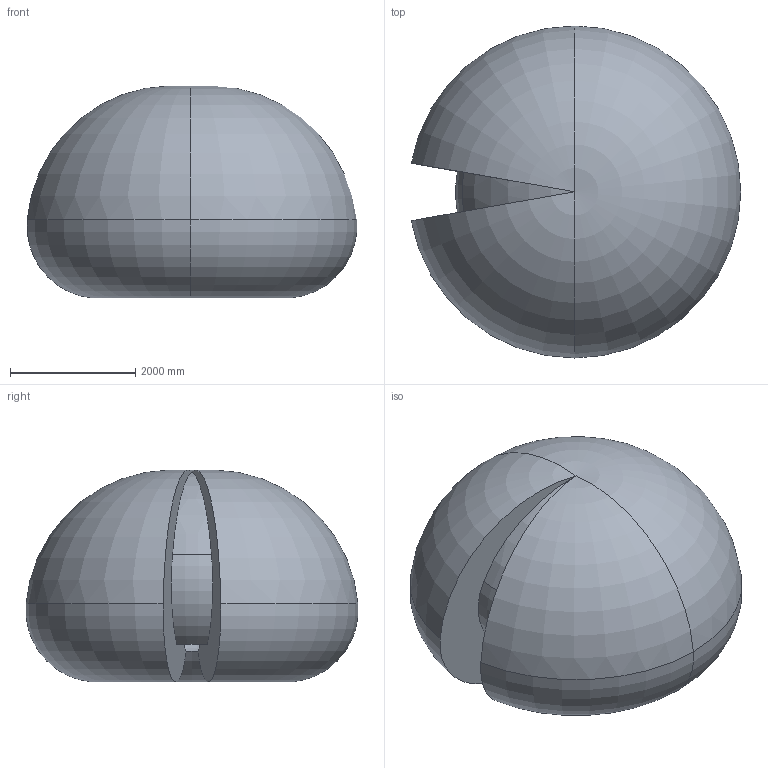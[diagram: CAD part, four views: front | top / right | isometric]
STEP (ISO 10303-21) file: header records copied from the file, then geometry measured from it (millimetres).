
FILE_DESCRIPTION (( 'STEP AP214' ), '1' );
FILE_NAME ('IRB6720-LID_215kg-265_OC_00_Working-space.step', '2026-05-26T08:20:23', ( '' ), ( '' ), 'SwSTEP 2.0', 'SolidWorks 2024', '' );
FILE_SCHEMA (( 'AUTOMOTIVE_DESIGN' ));
Length unit declared in the file: millimetre
Products named in the file (1): IRB6720-LID_215kg-265_OC_00_Working-space
Bounding box: 5252.08 x 5292.28 x 3376.7 mm (x, y, z)
Volume: 48848787100.4 mm3; surface area: 88301210.5 mm2
Topology: 1 solids, 1 shells, 18 faces, 44 edges, 20 vertices
Faces by surface type: torus 16, plane 2
Entity records: 503 total; most frequent: DIRECTION 110, CARTESIAN_POINT 75, ORIENTED_EDGE 72, AXIS2_PLACEMENT_3D 55, CIRCLE 36, EDGE_CURVE 36, VERTEX_POINT 20, ADVANCED_FACE 18
